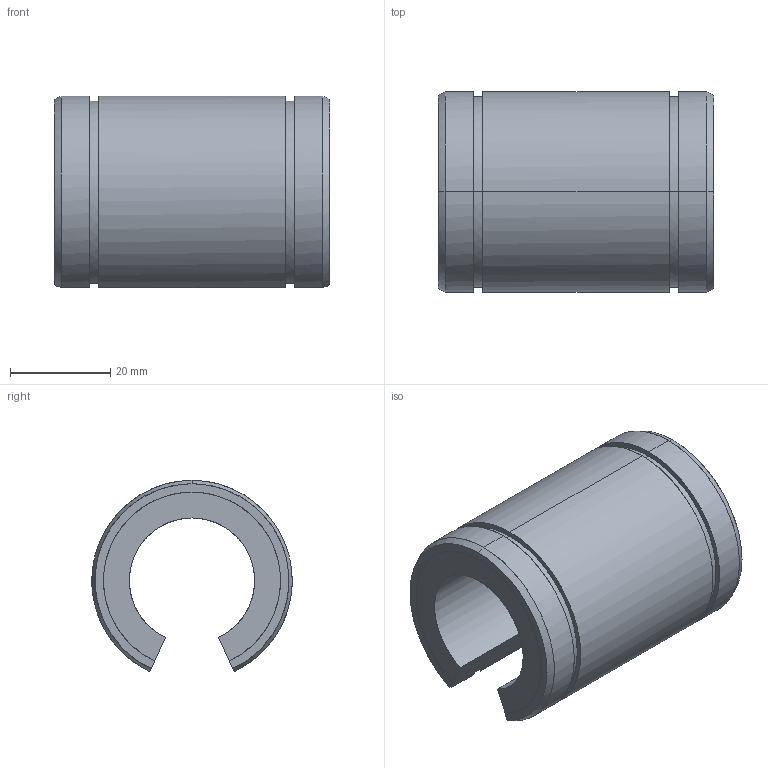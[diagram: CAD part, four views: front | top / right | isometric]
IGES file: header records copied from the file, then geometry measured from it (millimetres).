
Global section: file name: No Iges File Name specified; native system: AutoDesk Inventor R10; preprocessor: AutoDesk Inventor Iges Exporter R10; author: No Author specified; organization: No Organization specified; date: 20101208.113056; units: millimetre
Bounding box: 55 x 39.99 x 38.14 mm (x, y, z)
Surface area: 12107.8 mm2 (no closed solid volume)
Topology: 0 solids, 0 shells, 30 faces, 256 edges, 256 vertices
Faces by surface type: bspline 30
